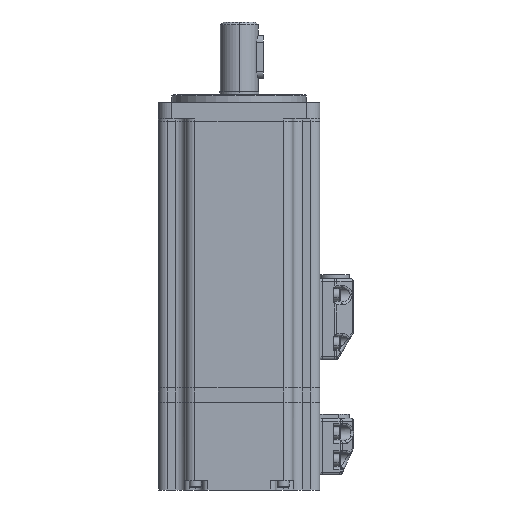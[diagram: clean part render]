
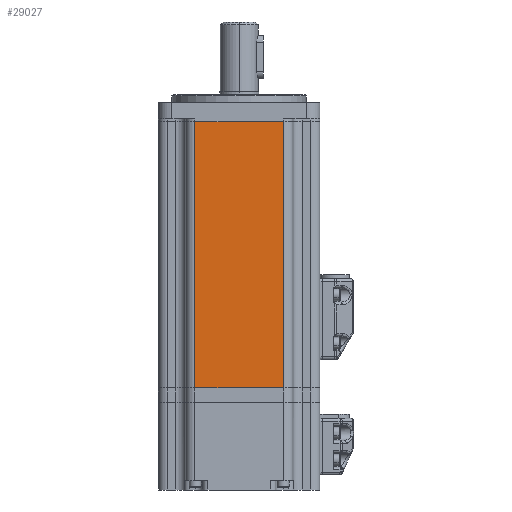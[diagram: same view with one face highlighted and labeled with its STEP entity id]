
A CAD part, front view. The second image highlights one B-rep face of the part: STEP entity #29027.
In plain terms, the highlighted planar face has unit normal (0, -1, 0).
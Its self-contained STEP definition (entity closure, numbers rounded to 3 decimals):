
#293 = VECTOR ( 'NONE', #33147, 1000. ) ;
#1620 = DIRECTION ( 'NONE',  ( 0., 0., 1. ) ) ;
#1731 = EDGE_CURVE ( 'NONE', #33202, #17401, #21861, .T. ) ;
#3103 = CARTESIAN_POINT ( 'NONE',  ( -16.5, -30., -99. ) ) ;
#3347 = CARTESIAN_POINT ( 'NONE',  ( -20., -30., -99. ) ) ;
#4008 = CARTESIAN_POINT ( 'NONE',  ( -16.5, -30., 0. ) ) ;
#5707 = CARTESIAN_POINT ( 'NONE',  ( 16.5, -30., -99. ) ) ;
#7872 = EDGE_CURVE ( 'NONE', #25495, #33202, #11800, .T. ) ;
#9507 = EDGE_LOOP ( 'NONE', ( #36541, #45326, #50085, #15711 ) ) ;
#11800 = LINE ( 'NONE', #5707, #42927 ) ;
#11944 = VECTOR ( 'NONE', #19056, 1000. ) ;
#12507 = LINE ( 'NONE', #3347, #13766 ) ;
#12955 = CARTESIAN_POINT ( 'NONE',  ( -20., -30., 0. ) ) ;
#13766 = VECTOR ( 'NONE', #31694, 1000. ) ;
#15711 = ORIENTED_EDGE ( 'NONE', *, *, #7872, .T. ) ;
#17401 = VERTEX_POINT ( 'NONE', #4008 ) ;
#17988 = DIRECTION ( 'NONE',  ( 0., 1., 0. ) ) ;
#18959 = EDGE_CURVE ( 'NONE', #17401, #39052, #44318, .T. ) ;
#19056 = DIRECTION ( 'NONE',  ( 0., 0., -1. ) ) ;
#21164 = EDGE_CURVE ( 'NONE', #25495, #39052, #12507, .T. ) ;
#21861 = LINE ( 'NONE', #12955, #293 ) ;
#22581 = FACE_OUTER_BOUND ( 'NONE', #9507, .T. ) ;
#25495 = VERTEX_POINT ( 'NONE', #43778 ) ;
#25940 = PLANE ( 'NONE',  #51871 ) ;
#29027 = ADVANCED_FACE ( 'NONE', ( #22581 ), #25940, .F. ) ;
#30006 = CARTESIAN_POINT ( 'NONE',  ( -20., -30., -99. ) ) ;
#31694 = DIRECTION ( 'NONE',  ( -1., 0., 0. ) ) ;
#33147 = DIRECTION ( 'NONE',  ( -1., 0., 0. ) ) ;
#33202 = VERTEX_POINT ( 'NONE', #34833 ) ;
#34833 = CARTESIAN_POINT ( 'NONE',  ( 16.5, -30., 0. ) ) ;
#36541 = ORIENTED_EDGE ( 'NONE', *, *, #1731, .T. ) ;
#36629 = CARTESIAN_POINT ( 'NONE',  ( -16.5, -30., -99. ) ) ;
#39052 = VERTEX_POINT ( 'NONE', #36629 ) ;
#42927 = VECTOR ( 'NONE', #1620, 1000. ) ;
#43778 = CARTESIAN_POINT ( 'NONE',  ( 16.5, -30., -99. ) ) ;
#44318 = LINE ( 'NONE', #3103, #11944 ) ;
#45326 = ORIENTED_EDGE ( 'NONE', *, *, #18959, .T. ) ;
#46360 = DIRECTION ( 'NONE',  ( 0., 0., 1. ) ) ;
#50085 = ORIENTED_EDGE ( 'NONE', *, *, #21164, .F. ) ;
#51871 = AXIS2_PLACEMENT_3D ( 'NONE', #30006, #17988, #46360 ) ;
